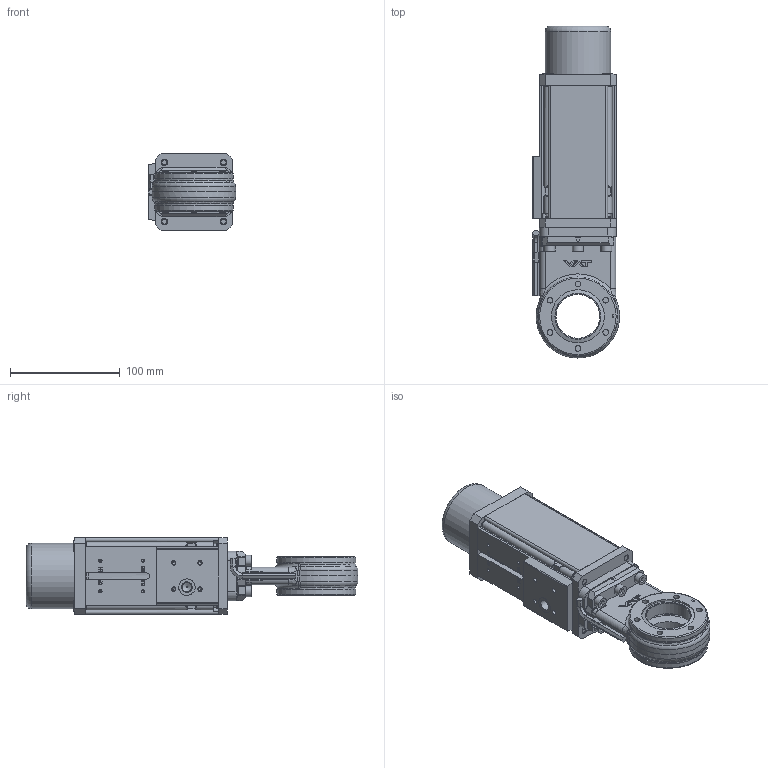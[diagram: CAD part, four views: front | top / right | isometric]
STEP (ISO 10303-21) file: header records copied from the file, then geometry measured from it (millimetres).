
FILE_DESCRIPTION(/* description */ (''),/* implementation_level */ '2;1');
FILE_NAME(/* name */ '1144288506_203',/* time_stamp */ '2009-09-01T16:21:03+02:00',/* author */ (''),/* organization */ (''),/* preprocessor_version */ 'ST-DEVELOPER v11',/* originating_system */ 'UGS - NX 5.0',/* authorisation */ '');
FILE_SCHEMA (('CONFIG_CONTROL_DESIGN'));
Length unit declared in the file: millimetre
Products named in the file (20): 63150-01; 63172-01; 69852-01; 92412-01.2; 69968-01.1; 70687-01.2; 72771-01.1; 70709-01.1; 228772.1; 73280-01_1.1; 63152-01.4; 224809.1; 68156-01.1; 70708-01.1; 70701-01.1; 65209-01.2; 318865; 63170-r1; 68340-r1.6; 415671
Assembly tree (36 placements, depth 5):
  415671
    65209-01.2
    70701-01.1
    70708-01.1
    68156-01.1  x4
    224809.1  x4
    63152-01.4
    73280-01_1.1
    228772.1  x6
    70709-01.1
    72771-01.1  x4
    70687-01.2
    69968-01.1
    68340-r1.6
      69852-01
      63172-01
      63170-r1
        318865
          63150-01  x2
      92412-01.2
    92412-01.2  x2
Bounding box: 79.51 x 303.07 x 70 mm (x, y, z)
Volume: 463515.5 mm3; surface area: 221698.6 mm2
Topology: 48 solids, 48 shells, 1073 faces, 2462 edges, 1596 vertices
Faces by surface type: plane 609, cylinder 293, cone 69, bspline 42, extrusion 31, torus 29
Full cylindrical faces by diameter (mm): 1.5 x1, 2.5 x4, 3 x4, 3.3 x4, 3.4 x2, 4 x8, 4.4 x8, 4.96 x10, 5 x17, 5.2 x18, 5.95 x2, 6 x38, 6.2 x10, 6.475 x4, 6.95 x2, 7.982 x4, 8.2 x4, 8.6 x1, 9.728 x1, 9.85 x1, 10 x10, 10.012 x4, 11.35 x4, 33.105 x1, 33.45 x1, 34.96 x1, 40.1 x3, 48.35 x3, 55.25 x1, 59.9 x1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
Entity records: 26543 total; most frequent: CARTESIAN_POINT 6113, DIRECTION 3538, ORIENTED_EDGE 3452, EDGE_CURVE 1726, AXIS2_PLACEMENT_3D 1287, VERTEX_POINT 1223, EDGE_LOOP 1114, VECTOR 964
